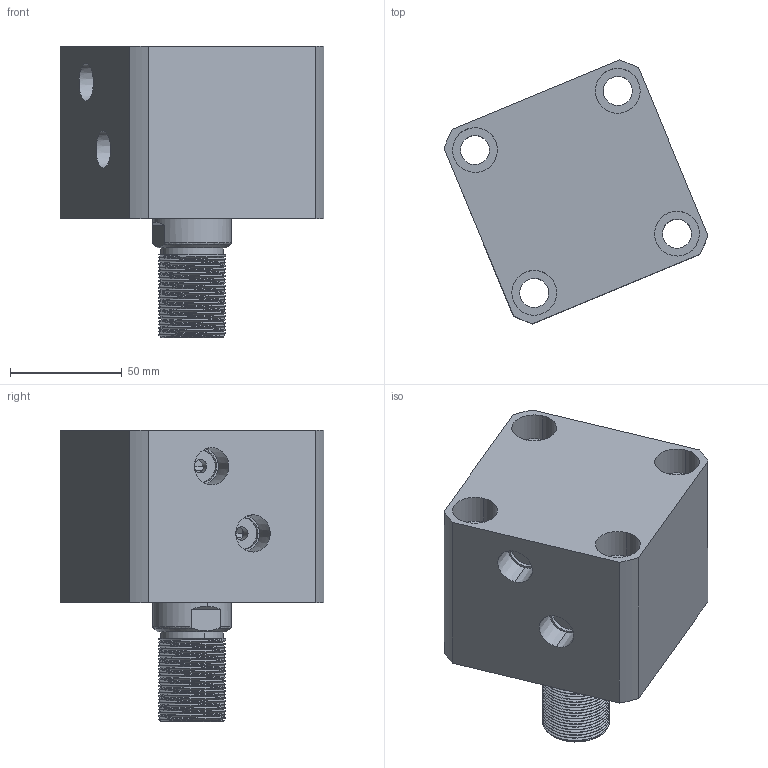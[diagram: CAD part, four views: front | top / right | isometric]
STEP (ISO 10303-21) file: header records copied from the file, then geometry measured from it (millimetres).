
FILE_DESCRIPTION (( 'STEP AP214' ), '1' );
FILE_NAME ('chtb-sd63x10w_asm.STEP', '2018-05-19T01:53:03', ( 'Windows' ), ( 'Microsoft' ), 'SwSTEP 2.0', 'SolidWorks 2015', '' );
FILE_SCHEMA (( 'AUTOMOTIVE_DESIGN' ));
Length unit declared in the file: millimetre
Products named in the file (4): CHTB63X10WHSG; CHTB63X10NBT; CHTB-63QG; chtb-sd63x10w_asm
Assembly tree (3 placements, depth 2):
  chtb-sd63x10w_asm
    CHTB-63QG
    CHTB63X10NBT
    CHTB63X10WHSG
Bounding box: 117.81 x 117.81 x 130 mm (x, y, z)
Volume: 627147 mm3; surface area: 116237.8 mm2
Topology: 3 solids, 3 shells, 219 faces, 625 edges, 427 vertices
Faces by surface type: cylinder 150, plane 36, bspline 14, cone 13, torus 6
Entity records: 22208 total; most frequent: CARTESIAN_POINT 16953, ORIENTED_EDGE 1242, DIRECTION 881, EDGE_CURVE 621, VERTEX_POINT 427, AXIS2_PLACEMENT_3D 346, EDGE_LOOP 252, FACE_OUTER_BOUND 219
